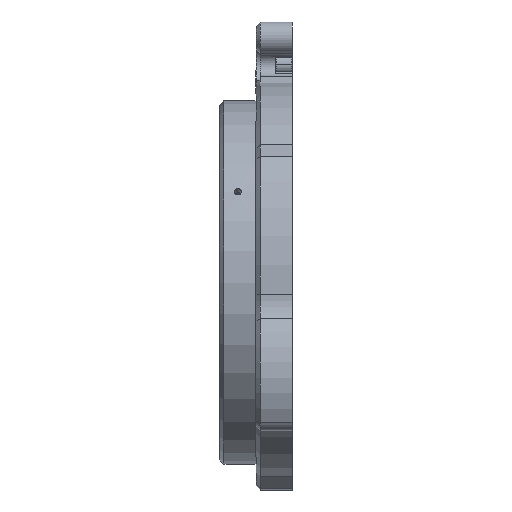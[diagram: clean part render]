
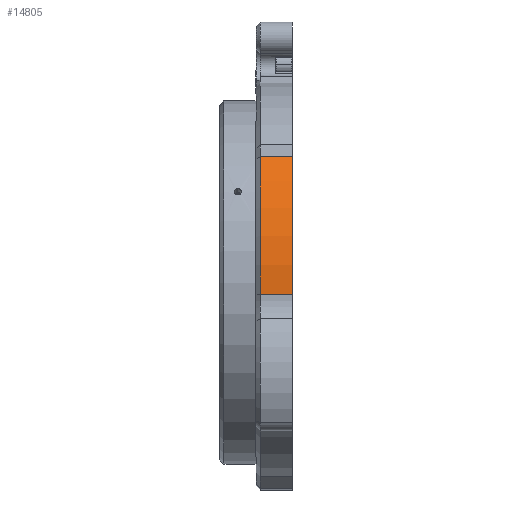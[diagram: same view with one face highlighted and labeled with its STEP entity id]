
A CAD part, left-side view. The second image highlights one B-rep face of the part: STEP entity #14805.
In plain terms, the highlighted cylindrical face has radius 72.5 mm (diameter 145 mm), a partial arc.
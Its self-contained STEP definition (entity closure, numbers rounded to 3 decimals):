
#411 = AXIS2_PLACEMENT_3D ( 'NONE', #4000, #7795, #7702 ) ;
#602 = DIRECTION ( 'NONE',  ( 0., -1., 0. ) ) ;
#612 = VERTEX_POINT ( 'NONE', #6375 ) ;
#1020 = VERTEX_POINT ( 'NONE', #3996 ) ;
#1315 = CYLINDRICAL_SURFACE ( 'NONE', #411, 72.5 ) ;
#1763 = EDGE_CURVE ( 'NONE', #12197, #2799, #3663, .T. ) ;
#2799 = VERTEX_POINT ( 'NONE', #12766 ) ;
#3663 = LINE ( 'NONE', #13907, #10396 ) ;
#3996 = CARTESIAN_POINT ( 'NONE',  ( -57.488, 0., 44.174 ) ) ;
#4000 = CARTESIAN_POINT ( 'NONE',  ( 0., 117.257, 0. ) ) ;
#4054 = EDGE_LOOP ( 'NONE', ( #11012, #5335, #10507, #8370 ) ) ;
#4754 = DIRECTION ( 'NONE',  ( 0., -1., 0. ) ) ;
#4819 = VECTOR ( 'NONE', #12420, 1000. ) ;
#5335 = ORIENTED_EDGE ( 'NONE', *, *, #15714, .T. ) ;
#5520 = DIRECTION ( 'NONE',  ( 0.866, 0., 0.5 ) ) ;
#6375 = CARTESIAN_POINT ( 'NONE',  ( -57.488, 11.2, 44.174 ) ) ;
#6521 = EDGE_CURVE ( 'NONE', #2799, #1020, #6970, .T. ) ;
#6843 = CIRCLE ( 'NONE', #15935, 72.5 ) ;
#6970 = CIRCLE ( 'NONE', #15515, 72.5 ) ;
#7035 = DIRECTION ( 'NONE',  ( 0., 1., 0. ) ) ;
#7196 = CARTESIAN_POINT ( 'NONE',  ( 0., 0., 0. ) ) ;
#7702 = DIRECTION ( 'NONE',  ( 0., 0., -1. ) ) ;
#7795 = DIRECTION ( 'NONE',  ( 0., -1., 0. ) ) ;
#8370 = ORIENTED_EDGE ( 'NONE', *, *, #6521, .T. ) ;
#8711 = CARTESIAN_POINT ( 'NONE',  ( -72.385, 11.2, -4.078 ) ) ;
#8822 = CARTESIAN_POINT ( 'NONE',  ( -57.488, 117.257, 44.174 ) ) ;
#8964 = FACE_OUTER_BOUND ( 'NONE', #4054, .T. ) ;
#9758 = CARTESIAN_POINT ( 'NONE',  ( 0., 11.2, 0. ) ) ;
#10396 = VECTOR ( 'NONE', #4754, 1000. ) ;
#10507 = ORIENTED_EDGE ( 'NONE', *, *, #1763, .T. ) ;
#10770 = EDGE_CURVE ( 'NONE', #612, #1020, #11083, .T. ) ;
#11012 = ORIENTED_EDGE ( 'NONE', *, *, #10770, .F. ) ;
#11083 = LINE ( 'NONE', #8822, #4819 ) ;
#12197 = VERTEX_POINT ( 'NONE', #8711 ) ;
#12420 = DIRECTION ( 'NONE',  ( 0., -1., 0. ) ) ;
#12766 = CARTESIAN_POINT ( 'NONE',  ( -72.385, 0., -4.078 ) ) ;
#13907 = CARTESIAN_POINT ( 'NONE',  ( -72.385, 117.257, -4.078 ) ) ;
#14805 = ADVANCED_FACE ( 'NONE', ( #8964 ), #1315, .T. ) ;
#14854 = DIRECTION ( 'NONE',  ( 0., 0., 1. ) ) ;
#15515 = AXIS2_PLACEMENT_3D ( 'NONE', #7196, #7035, #5520 ) ;
#15714 = EDGE_CURVE ( 'NONE', #612, #12197, #6843, .T. ) ;
#15935 = AXIS2_PLACEMENT_3D ( 'NONE', #9758, #602, #14854 ) ;
